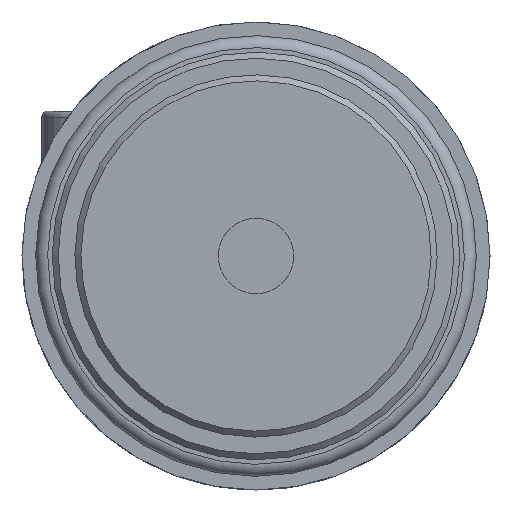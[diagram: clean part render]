
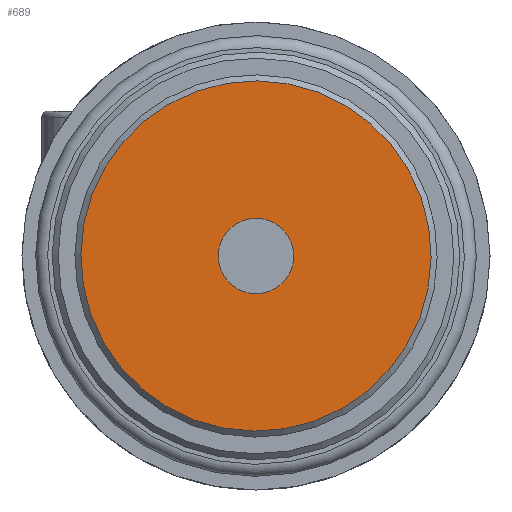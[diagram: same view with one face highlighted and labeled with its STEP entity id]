
A CAD part, left-side view. The second image highlights one B-rep face of the part: STEP entity #689.
In plain terms, the highlighted planar face has unit normal (-1, 0, 0) as drawn and (1, 0, 0) by its records, which use the part's own axes.
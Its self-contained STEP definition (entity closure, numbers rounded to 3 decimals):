
#689 = ADVANCED_FACE( '', ( #1472, #1473 ), #1474, .T. );
#1472 = FACE_OUTER_BOUND( '', #2312, .T. );
#1473 = FACE_BOUND( '', #2313, .T. );
#1474 = PLANE( '', #2314 );
#2312 = EDGE_LOOP( '', ( #3720 ) );
#2313 = EDGE_LOOP( '', ( #3721 ) );
#2314 = AXIS2_PLACEMENT_3D( '', #3722, #3723, #3724 );
#3720 = ORIENTED_EDGE( '', *, *, #4655, .T. );
#3721 = ORIENTED_EDGE( '', *, *, #4486, .T. );
#3722 = CARTESIAN_POINT( '', ( 13., 0., 6. ) );
#3723 = DIRECTION( '', ( 1., 0., 0. ) );
#3724 = DIRECTION( '', ( 0., 0., -1. ) );
#4486 = EDGE_CURVE( '', #5280, #5280, #5281, .T. );
#4655 = EDGE_CURVE( '', #5502, #5502, #5503, .T. );
#5280 = VERTEX_POINT( '', #6314 );
#5281 = CIRCLE( '', #6315, 1.25 );
#5502 = VERTEX_POINT( '', #6596 );
#5503 = CIRCLE( '', #6597, 5.8 );
#6314 = CARTESIAN_POINT( '', ( 13., 0., 1.25 ) );
#6315 = AXIS2_PLACEMENT_3D( '', #7297, #7298, #7299 );
#6596 = CARTESIAN_POINT( '', ( 13., 0., -5.8 ) );
#6597 = AXIS2_PLACEMENT_3D( '', #7475, #7476, #7477 );
#7297 = CARTESIAN_POINT( '', ( 13., 0., 0. ) );
#7298 = DIRECTION( '', ( -1., 0., 0. ) );
#7299 = DIRECTION( '', ( 0., 0., 1. ) );
#7475 = CARTESIAN_POINT( '', ( 13., 0., 0. ) );
#7476 = DIRECTION( '', ( 1., 0., 0. ) );
#7477 = DIRECTION( '', ( 0., 0., -1. ) );
